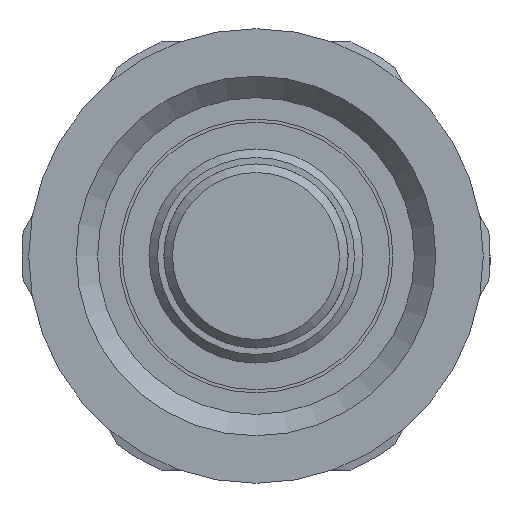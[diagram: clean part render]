
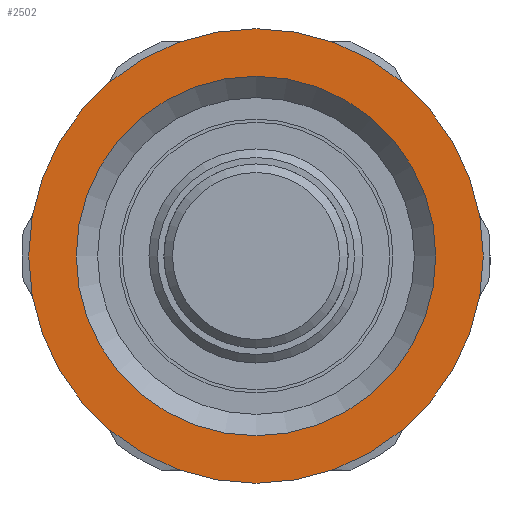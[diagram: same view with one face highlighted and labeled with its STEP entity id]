
A CAD part, left-side view. The second image highlights one B-rep face of the part: STEP entity #2502.
In plain terms, the highlighted planar face has unit normal (-1, 0, 0).
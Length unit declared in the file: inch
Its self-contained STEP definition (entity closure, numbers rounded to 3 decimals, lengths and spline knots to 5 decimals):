
#2468=CARTESIAN_POINT('',(-2.57722,-0.531,0.0));
#2469=VERTEX_POINT('',#2468);
#2470=CARTESIAN_POINT('',(-2.57722,0.,0.0));
#2471=DIRECTION('',(-1.0,0.0,0.0));
#2472=DIRECTION('',(0.0,-1.0,0.0));
#2473=AXIS2_PLACEMENT_3D('',#2470,#2471,#2472);
#2474=CIRCLE('',#2473,0.531);
#2475=EDGE_CURVE('',#2469,#2469,#2474,.T.);
#2483=CARTESIAN_POINT('',(-2.57722,-0.4755,0.0));
#2484=DIRECTION('',(-1.0,0.0,0.0));
#2485=DIRECTION('',(0.0,0.0,-1.0));
#2486=AXIS2_PLACEMENT_3D('',#2483,#2484,#2485);
#2487=PLANE('',#2486);
#2488=ORIENTED_EDGE('',*,*,#2475,.T.);
#2489=EDGE_LOOP('',(#2488));
#2490=FACE_OUTER_BOUND('',#2489,.T.);
#2491=CARTESIAN_POINT('',(-2.57722,-0.42,0.0));
#2492=VERTEX_POINT('',#2491);
#2493=CARTESIAN_POINT('',(-2.57722,0.,0.0));
#2494=DIRECTION('',(-1.0,0.0,0.0));
#2495=DIRECTION('',(0.0,-1.0,0.0));
#2496=AXIS2_PLACEMENT_3D('',#2493,#2494,#2495);
#2497=CIRCLE('',#2496,0.42);
#2498=EDGE_CURVE('',#2492,#2492,#2497,.T.);
#2499=ORIENTED_EDGE('',*,*,#2498,.F.);
#2500=EDGE_LOOP('',(#2499));
#2501=FACE_BOUND('',#2500,.T.);
#2502=ADVANCED_FACE('',(#2490,#2501),#2487,.T.);
